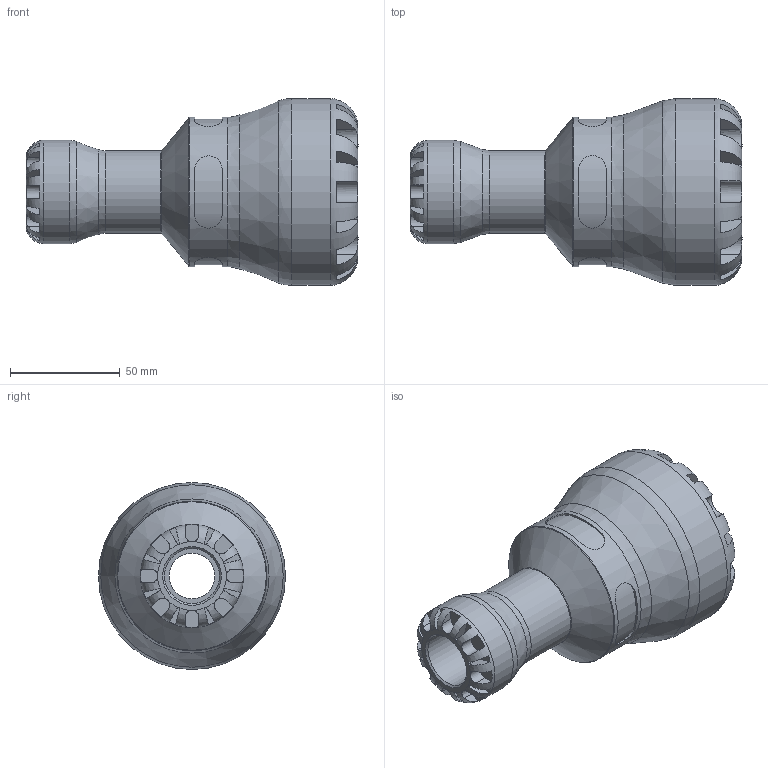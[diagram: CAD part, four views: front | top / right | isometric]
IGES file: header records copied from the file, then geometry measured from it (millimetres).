
Global section: file name: 101100050025_191100050025.ipt; native system: Autodesk Inventor 2015; preprocessor: unknown; author: KIM; date: 20170117.123315; units: millimetre
Bounding box: 151 x 85 x 85 mm (x, y, z)
Volume: 264186.9 mm3; surface area: 57235.6 mm2
Topology: 1 solids, 1 shells, 172 faces, 451 edges, 286 vertices
Faces by surface type: plane 108, revolution 37, cylinder 24, cone 3
Full cylindrical faces by diameter (mm): 37.6 x1, 47 x1, 68 x1, 85 x1
